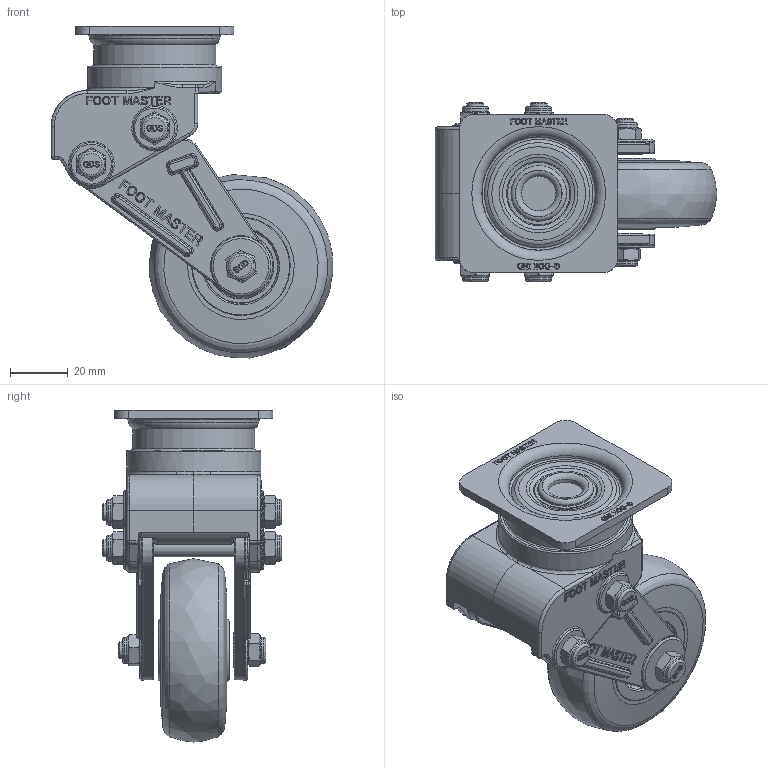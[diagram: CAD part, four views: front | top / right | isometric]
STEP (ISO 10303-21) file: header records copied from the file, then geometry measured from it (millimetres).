
FILE_DESCRIPTION(/* description */ (''),/* implementation_level */ '2;1');
FILE_NAME(/* name */ 'C:\Users\admin\Desktop\JYS\개발품\상세설계_20220328\홈페이지용 도면\GDS-65-ARF-EUS.stp',/* time_stamp */ '2023-03-08T14:58:10+09:00',/* author */ ('admin'),/* organization */ (''),/* preprocessor_version */ 'ST-DEVELOPER v18.1',/* originating_system */ 'Autodesk Inventor 2021',/* authorisation */ '');
FILE_SCHEMA (('AUTOMOTIVE_DESIGN { 1 0 10303 214 3 1 1 }'));
Products named in the file (1): GDS-65_ARF_REV01_Shrinkwrap_1
Bounding box: 97.95 x 62.3 x 115.38 mm (x, y, z)
Volume: 148715.8 mm3; surface area: 48450.3 mm2
Topology: 1 solids, 1 shells, 1966 faces, 5146 edges, 3299 vertices
Faces by surface type: plane 765, bspline 658, cylinder 259, cone 152, torus 116, sphere 16
Full cylindrical faces by diameter (mm): 6 x5, 8.8 x3, 9 x6, 12 x1, 17.216 x2, 18 x1, 19.3 x1, 20 x2, 22 x2, 22.784 x2, 42.5 x1, 46.5 x1
Entity records: 67794 total; most frequent: CARTESIAN_POINT 21561, ORIENTED_EDGE 10268, DIRECTION 7386, EDGE_CURVE 5134, VERTEX_POINT 3299, LINE 2520, VECTOR 2520, AXIS2_PLACEMENT_3D 2433
